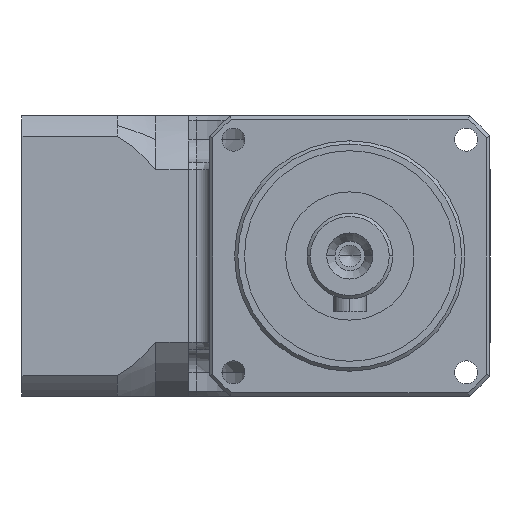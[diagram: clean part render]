
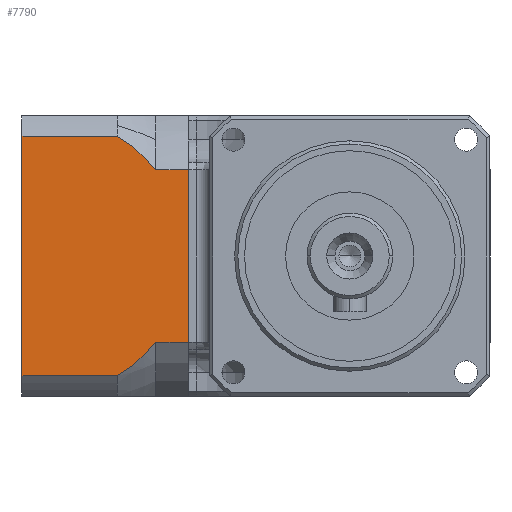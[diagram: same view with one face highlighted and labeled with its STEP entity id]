
A CAD part, left-side view. The second image highlights one B-rep face of the part: STEP entity #7790.
In plain terms, the highlighted planar face has unit normal (-1, 0, 0) as drawn and (0, 0, 1) by its records, which use the part's own axes.
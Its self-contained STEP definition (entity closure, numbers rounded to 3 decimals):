
#476 = CARTESIAN_POINT ( 'NONE',  ( -15.987, 27.105, 21.3 ) ) ;
#531 = CARTESIAN_POINT ( 'NONE',  ( -18.174, 9.4, 21.3 ) ) ;
#619 = ORIENTED_EDGE ( 'NONE', *, *, #16812, .T. ) ;
#1702 = VECTOR ( 'NONE', #32436, 1000. ) ;
#2100 = ORIENTED_EDGE ( 'NONE', *, *, #24002, .T. ) ;
#2543 = EDGE_CURVE ( 'NONE', #17209, #6621, #21475, .T. ) ;
#2555 = VECTOR ( 'NONE', #10987, 1000. ) ;
#2675 = LINE ( 'NONE', #30120, #21010 ) ;
#3098 = CARTESIAN_POINT ( 'NONE',  ( -17.507, 25.014, 21.3 ) ) ;
#4204 = ORIENTED_EDGE ( 'NONE', *, *, #2543, .F. ) ;
#4615 = CARTESIAN_POINT ( 'NONE',  ( 13.089, 29.7, 21.3 ) ) ;
#4851 = ORIENTED_EDGE ( 'NONE', *, *, #9617, .T. ) ;
#5138 = EDGE_CURVE ( 'NONE', #7100, #17581, #30814, .T. ) ;
#6498 = CARTESIAN_POINT ( 'NONE',  ( -13.089, 29.7, 21.3 ) ) ;
#6621 = VERTEX_POINT ( 'NONE', #31672 ) ;
#6976 = EDGE_CURVE ( 'NONE', #30730, #13857, #31961, .T. ) ;
#7100 = VERTEX_POINT ( 'NONE', #31757 ) ;
#7163 = CARTESIAN_POINT ( 'NONE',  ( 15., 9.4, 21.3 ) ) ;
#7472 = AXIS2_PLACEMENT_3D ( 'NONE', #25896, #28466, #30979 ) ;
#7790 = ADVANCED_FACE ( 'NONE', ( #15106 ), #31325, .T. ) ;
#8055 = CARTESIAN_POINT ( 'NONE',  ( -14.116, 28.889, 21.3 ) ) ;
#9617 = EDGE_CURVE ( 'NONE', #22248, #6621, #13672, .T. ) ;
#10869 = CARTESIAN_POINT ( 'NONE',  ( -13.089, 29.7, 21.3 ) ) ;
#10987 = DIRECTION ( 'NONE',  ( 0., -1., 0. ) ) ;
#11042 = ORIENTED_EDGE ( 'NONE', *, *, #5138, .T. ) ;
#11956 = CARTESIAN_POINT ( 'NONE',  ( -18.174, 4.7, 21.3 ) ) ;
#13176 = EDGE_CURVE ( 'NONE', #17581, #30730, #2675, .T. ) ;
#13245 = CARTESIAN_POINT ( 'NONE',  ( -13.089, 4.7, 21.3 ) ) ;
#13672 = LINE ( 'NONE', #7163, #18183 ) ;
#13857 = VERTEX_POINT ( 'NONE', #6498 ) ;
#14232 = CARTESIAN_POINT ( 'NONE',  ( 13.089, 34.7, 21.3 ) ) ;
#14347 = CARTESIAN_POINT ( 'NONE',  ( -13.089, 34.7, 21.3 ) ) ;
#14374 = CARTESIAN_POINT ( 'NONE',  ( 18.174, 23.887, 21.3 ) ) ;
#15106 = FACE_OUTER_BOUND ( 'NONE', #21442, .T. ) ;
#15680 = ORIENTED_EDGE ( 'NONE', *, *, #13176, .T. ) ;
#15736 = VECTOR ( 'NONE', #17058, 1000. ) ;
#16812 = EDGE_CURVE ( 'NONE', #17209, #7100, #31083, .T. ) ;
#16942 = ORIENTED_EDGE ( 'NONE', *, *, #6976, .T. ) ;
#17003 = EDGE_CURVE ( 'NONE', #13857, #32430, #20801, .T. ) ;
#17058 = DIRECTION ( 'NONE',  ( 0., 1., 0. ) ) ;
#17209 = VERTEX_POINT ( 'NONE', #14374 ) ;
#17581 = VERTEX_POINT ( 'NONE', #14232 ) ;
#17588 = CARTESIAN_POINT ( 'NONE',  ( 14.116, 28.889, 21.3 ) ) ;
#18105 = ORIENTED_EDGE ( 'NONE', *, *, #17003, .T. ) ;
#18183 = VECTOR ( 'NONE', #28119, 1000. ) ;
#19500 = CARTESIAN_POINT ( 'NONE',  ( 18.174, 33.686, 21.3 ) ) ;
#20801 = B_SPLINE_CURVE_WITH_KNOTS ( 'NONE', 3,
 ( #10869, #8055, #476, #3098, #31982 ),
 .UNSPECIFIED., .F., .F.,
 ( 4, 1, 4 ),
 ( 0., 0.004, 0.008 ),
 .UNSPECIFIED. ) ;
#21010 = VECTOR ( 'NONE', #32773, 1000. ) ;
#21442 = EDGE_LOOP ( 'NONE', ( #2100, #4851, #4204, #619, #11042, #15680, #16942, #18105 ) ) ;
#21475 = LINE ( 'NONE', #19500, #23086 ) ;
#22248 = VERTEX_POINT ( 'NONE', #531 ) ;
#22825 = LINE ( 'NONE', #11956, #1702 ) ;
#23086 = VECTOR ( 'NONE', #33712, 1000. ) ;
#24002 = EDGE_CURVE ( 'NONE', #32430, #22248, #22825, .T. ) ;
#25225 = CARTESIAN_POINT ( 'NONE',  ( -18.174, 23.887, 21.3 ) ) ;
#25896 = CARTESIAN_POINT ( 'NONE',  ( 21.3, 4.7, 21.3 ) ) ;
#27736 = CARTESIAN_POINT ( 'NONE',  ( 18.174, 23.887, 21.3 ) ) ;
#28119 = DIRECTION ( 'NONE',  ( 1., 0., 0. ) ) ;
#28466 = DIRECTION ( 'NONE',  ( 0., 0., 1. ) ) ;
#30120 = CARTESIAN_POINT ( 'NONE',  ( 21.3, 34.7, 21.3 ) ) ;
#30476 = CARTESIAN_POINT ( 'NONE',  ( 17.507, 25.014, 21.3 ) ) ;
#30730 = VERTEX_POINT ( 'NONE', #14347 ) ;
#30814 = LINE ( 'NONE', #32713, #15736 ) ;
#30979 = DIRECTION ( 'NONE',  ( 1., 0., 0. ) ) ;
#31083 = B_SPLINE_CURVE_WITH_KNOTS ( 'NONE', 3,
 ( #27736, #30476, #33265, #17588, #4615 ),
 .UNSPECIFIED., .F., .F.,
 ( 4, 1, 4 ),
 ( 0., 0.004, 0.008 ),
 .UNSPECIFIED. ) ;
#31325 = PLANE ( 'NONE',  #7472 ) ;
#31672 = CARTESIAN_POINT ( 'NONE',  ( 18.174, 9.4, 21.3 ) ) ;
#31757 = CARTESIAN_POINT ( 'NONE',  ( 13.089, 29.7, 21.3 ) ) ;
#31961 = LINE ( 'NONE', #13245, #2555 ) ;
#31982 = CARTESIAN_POINT ( 'NONE',  ( -18.174, 23.887, 21.3 ) ) ;
#32430 = VERTEX_POINT ( 'NONE', #25225 ) ;
#32436 = DIRECTION ( 'NONE',  ( 0., -1., 0. ) ) ;
#32713 = CARTESIAN_POINT ( 'NONE',  ( 13.089, 4.7, 21.3 ) ) ;
#32773 = DIRECTION ( 'NONE',  ( -1., 0., 0. ) ) ;
#33265 = CARTESIAN_POINT ( 'NONE',  ( 15.987, 27.105, 21.3 ) ) ;
#33712 = DIRECTION ( 'NONE',  ( 0., -1., 0. ) ) ;
